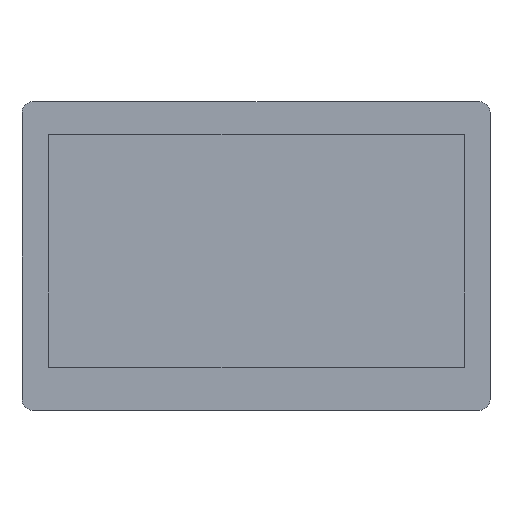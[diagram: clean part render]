
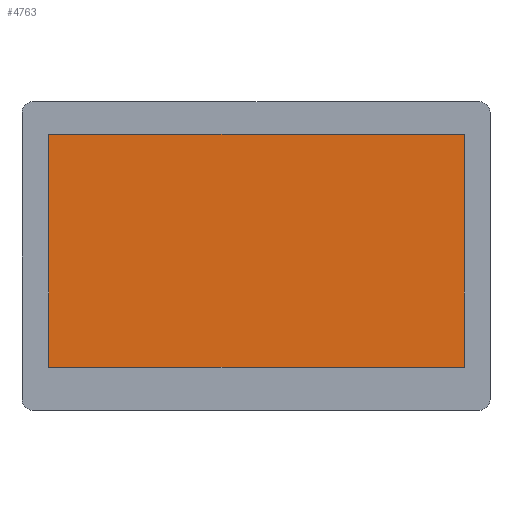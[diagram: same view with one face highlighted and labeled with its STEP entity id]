
A CAD part, top view. The second image highlights one B-rep face of the part: STEP entity #4763.
In plain terms, the highlighted planar face has unit normal (0, 0, 1).
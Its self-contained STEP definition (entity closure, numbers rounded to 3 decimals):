
#1805 = DIRECTION ( 'NONE',  ( 0., 0., -1. ) ) ;
#4270 = CARTESIAN_POINT ( 'NONE',  ( -77.25, 45.35, 0.65 ) ) ;
#4763 = ADVANCED_FACE ( 'NONE', ( #103202 ), #52483, .F. ) ;
#5118 = ORIENTED_EDGE ( 'NONE', *, *, #114924, .T. ) ;
#20204 = VECTOR ( 'NONE', #56169, 1000. ) ;
#23306 = VERTEX_POINT ( 'NONE', #79636 ) ;
#25629 = DIRECTION ( 'NONE',  ( -1., 0., 0. ) ) ;
#36351 = ORIENTED_EDGE ( 'NONE', *, *, #122796, .T. ) ;
#41660 = VECTOR ( 'NONE', #25629, 1000. ) ;
#48118 = ORIENTED_EDGE ( 'NONE', *, *, #134514, .T. ) ;
#49506 = DIRECTION ( 'NONE',  ( 1., 0., 0. ) ) ;
#52483 = PLANE ( 'NONE',  #114581 ) ;
#53425 = CARTESIAN_POINT ( 'NONE',  ( 77.65, 45.35, 0.65 ) ) ;
#54935 = LINE ( 'NONE', #4270, #41660 ) ;
#56169 = DIRECTION ( 'NONE',  ( 0., 1., 0. ) ) ;
#56298 = DIRECTION ( 'NONE',  ( 0., -1., 0. ) ) ;
#68068 = VERTEX_POINT ( 'NONE', #130610 ) ;
#73819 = CARTESIAN_POINT ( 'NONE',  ( 0., 0., 0.65 ) ) ;
#79636 = CARTESIAN_POINT ( 'NONE',  ( -77.25, 45.35, 0.65 ) ) ;
#81892 = CARTESIAN_POINT ( 'NONE',  ( 77.65, 45.35, 0.65 ) ) ;
#85636 = LINE ( 'NONE', #128279, #161644 ) ;
#87569 = CARTESIAN_POINT ( 'NONE',  ( -77.25, -41.5, 0.65 ) ) ;
#93989 = VERTEX_POINT ( 'NONE', #81892 ) ;
#95221 = DIRECTION ( 'NONE',  ( -1., 0., 0. ) ) ;
#99099 = VERTEX_POINT ( 'NONE', #87569 ) ;
#102687 = ORIENTED_EDGE ( 'NONE', *, *, #139007, .T. ) ;
#103202 = FACE_OUTER_BOUND ( 'NONE', #152062, .T. ) ;
#104147 = LINE ( 'NONE', #53425, #20204 ) ;
#105221 = LINE ( 'NONE', #155741, #109289 ) ;
#109289 = VECTOR ( 'NONE', #49506, 1000. ) ;
#114581 = AXIS2_PLACEMENT_3D ( 'NONE', #73819, #1805, #95221 ) ;
#114924 = EDGE_CURVE ( 'NONE', #99099, #68068, #105221, .T. ) ;
#122796 = EDGE_CURVE ( 'NONE', #68068, #93989, #104147, .T. ) ;
#128279 = CARTESIAN_POINT ( 'NONE',  ( -77.25, 45.35, 0.65 ) ) ;
#130610 = CARTESIAN_POINT ( 'NONE',  ( 77.65, -41.5, 0.65 ) ) ;
#134514 = EDGE_CURVE ( 'NONE', #93989, #23306, #54935, .T. ) ;
#139007 = EDGE_CURVE ( 'NONE', #23306, #99099, #85636, .T. ) ;
#152062 = EDGE_LOOP ( 'NONE', ( #102687, #5118, #36351, #48118 ) ) ;
#155741 = CARTESIAN_POINT ( 'NONE',  ( 77.65, -41.5, 0.65 ) ) ;
#161644 = VECTOR ( 'NONE', #56298, 1000. ) ;
